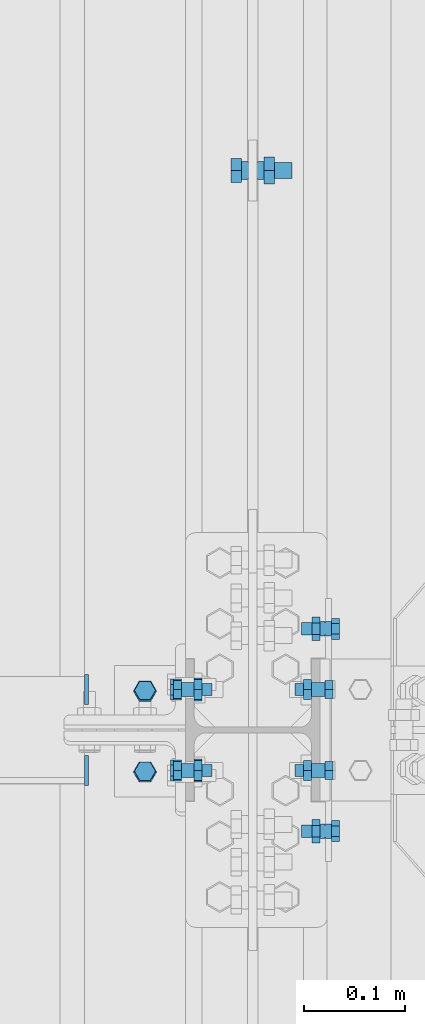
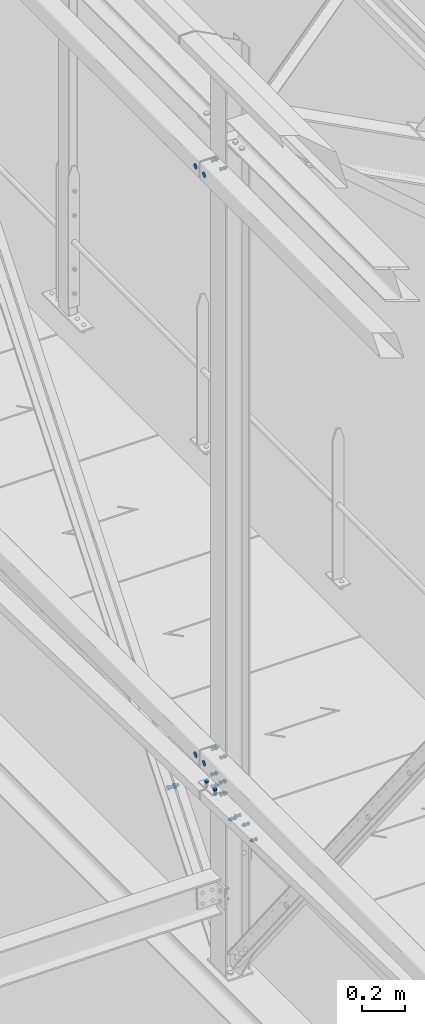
# One storey, part 244 of 362: 19 mechanical fasteners.
"""IFC2X3 building model written with IfcOpenShell, lengths in millimetres."""

from ifc_helpers import new_model, si_unit, frame, origin_with_axes, origin_2d_with_axis, place, context, subcontext, project, spatial, polyline, circle, outline, extrude, source, transform, mapped, material, type_object, element, save


model = new_model("IFC2X3")

# Units and contexts
model_context = context("Model", 3, precision=1e-05, world=origin_with_axes())
body_context = subcontext(model_context, "Body", "Model", "MODEL_VIEW")
ifc_project = project(units=[si_unit("LENGTHUNIT", "METRE", prefix="MILLI"), si_unit("AREAUNIT", "SQUARE_METRE"), si_unit("VOLUMEUNIT", "CUBIC_METRE"), si_unit("MASSUNIT", "GRAM", prefix="KILO"), si_unit("TIMEUNIT", "SECOND"), si_unit("PLANEANGLEUNIT", "RADIAN"), si_unit("SOLIDANGLEUNIT", "STERADIAN"), si_unit("THERMODYNAMICTEMPERATUREUNIT", "DEGREE_CELSIUS"), si_unit("LUMINOUSINTENSITYUNIT", "LUMEN")], contexts=[model_context])

# Site, building, storey
site_placement = place(None, origin_with_axes())
site = spatial("IfcSite", under=ifc_project, at=site_placement, Name="Undefined", CompositionType="ELEMENT")
building_placement = place(site_placement, origin_with_axes())
building = spatial("IfcBuilding", under=site, at=building_placement, Name="Undefined", CompositionType="ELEMENT")
storey_placement = place(building_placement, origin_with_axes())
storey = spatial("IfcBuildingStorey", under=building, at=storey_placement, Name="Undefined", CompositionType="ELEMENT", Elevation=0.0)

# Mechanical fasteners
ifc_material_1 = material(Name="6.8")
mechanical_fastener_type = type_object("IfcMechanicalFastenerType", Name="Bolt assembly")
shared_shape_1 = source(origin_with_axes(), body_context, "Body", "SweptSolid", [
    extrude(circle(Radius=15.0, at=origin_2d_with_axis()), frame((0.0, 0.0, 0.0), z_axis=(0.0, 1.0, 0.0), x_axis=(1.0, 0.0, 0.0)), (0.0, 0.0, 1.0), 4.1),
])
for number, where, z_axis, x_axis, name in (
    (1, (12513.5000000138, 7639.99203703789, 11870.0), (0.0, 1.0, 0.0), (0.0, 0.0, 1.0), "Bolt assembly"),
    (2, (12513.5000000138, 7560.0, 11870.0), (0.0, 1.0, 0.0), (0.0, 0.0, 1.0), "Bolt assembly"),
    (3, (12513.5000000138, 7639.99203703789, 8500.0), (0.0, -1.0, 0.0), (0.0, 0.0, -1.0), "Bolt assembly"),
    (4, (12513.5000000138, 7560.0, 8500.0), (0.0, -1.0, 0.0), (0.0, 0.0, -1.0), "Bolt assembly"),
):
    element("IfcMechanicalFastener", number, at=place(storey_placement, frame(where, z_axis=z_axis, x_axis=x_axis)), inside=storey, type_object=mechanical_fastener_type, material=ifc_material_1, Name=name, NominalDiameter=30.0, NominalLength=4.0, context=body_context, shape_type="MappedRepresentation", body=[
        mapped(shared_shape_1, transform((0.0, 0.0, 0.0))),
    ])
ifc_material_2 = material(Name="8.8-SB-ZINGUE")
shared_shape_2 = source(origin_with_axes(), body_context, "Body", "SweptSolid", [
    extrude(circle(Radius=9.0, at=origin_2d_with_axis()), frame((0.0, -10.9000000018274, 0.0), z_axis=(0.0, 1.0, 0.0), x_axis=(1.0, 0.0, 0.0)), (0.0, 0.0, 1.0), 6.0),
    extrude(circle(Radius=9.0, at=origin_2d_with_axis()), frame((0.0, 4.9000000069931, 0.0), z_axis=(0.0, 1.0, 0.0), x_axis=(1.0, 0.0, 0.0)), (0.0, 0.0, 1.0), 6.1),
    extrude(circle(Radius=9.0, at=origin_2d_with_axis()), frame((0.0, -3.99999923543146, 0.0), z_axis=(0.0, 1.0, 0.0), x_axis=(1.0, 0.0, 0.0)), (0.0, 0.0, 1.0), 8.0),
    extrude(outline(polyline([(13.85640646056, 0.0), (6.92820323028, 12.0000000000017), (-6.92820323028, 12.0000000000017), (-13.85640646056, 0.0), (-6.92820323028, -12.0000000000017), (6.92820323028, -12.0000000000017), (13.85640646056, 0.0)])), frame((0.0, -21.5600000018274, 0.0), z_axis=(0.0, 1.0, 0.0), x_axis=(1.0, 0.0, 0.0)), (0.0, 0.0, 1.0), 10.56),
    extrude(circle(Radius=8.0, at=origin_2d_with_axis()), frame((0.0, -11.0000000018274, 0.0), z_axis=(0.0, 1.0, 0.0), x_axis=(1.0, 0.0, 0.0)), (0.0, 0.0, 1.0), 50.0),
    extrude(outline(polyline([(15.3344231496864, 0.0), (7.6672115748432, 13.2800000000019), (-7.6672115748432, 13.2800000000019), (-15.3344231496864, 0.0), (-7.6672115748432, -13.2800000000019), (7.6672115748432, -13.2800000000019), (15.3344231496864, 0.0)])), frame((0.0, 11.0000000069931, 0.0), z_axis=(0.0, 1.0, 0.0), x_axis=(1.0, 0.0, 0.0)), (0.0, 0.0, 1.0), 10.56),
])
mechanical_fastener_1_placement = place(storey_placement, frame((12680.0, 8152.78710423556, 7946.36627816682), z_axis=(0.0, 1.0, 0.0), x_axis=(0.0, 0.0, 1.0)))
element("IfcMechanicalFastener", 5, at=mechanical_fastener_1_placement, inside=storey, type_object=mechanical_fastener_type, material=ifc_material_2, Name="Bolt assembly", NominalDiameter=16.0, NominalLength=50.0, context=body_context, shape_type="MappedRepresentation", body=[
    mapped(shared_shape_2, transform((0.0, 0.0, 0.0))),
])
shared_shape_3 = source(origin_with_axes(), body_context, "Body", "SweptSolid", [
    extrude(circle(Radius=7.0, at=origin_2d_with_axis()), frame((0.0, -0.100011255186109, 0.0), z_axis=(0.0, 1.0, 0.0), x_axis=(1.0, 0.0, 0.0)), (0.0, 0.0, 1.0), 8.6),
    extrude(circle(Radius=7.0, at=origin_2d_with_axis()), frame((0.0, -6.9, 0.0), z_axis=(0.0, 1.0, 0.0), x_axis=(1.0, 0.0, 0.0)), (0.0, 0.0, 1.0), 7.0),
    extrude(outline(polyline([(10.39230484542, 0.0), (5.19615242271, 9.00000000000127), (-5.19615242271, 9.00000000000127), (-10.39230484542, 0.0), (-5.19615242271, -9.00000000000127), (5.19615242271, -9.00000000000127), (10.39230484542, 0.0)])), frame((0.0, -14.92, 0.0), z_axis=(0.0, 1.0, 0.0), x_axis=(1.0, 0.0, 0.0)), (0.0, 0.0, 1.0), 7.92),
    extrude(circle(Radius=6.0, at=origin_2d_with_axis()), frame((0.0, -7.0, 0.0), z_axis=(0.0, 1.0, 0.0), x_axis=(1.0, 0.0, 0.0)), (0.0, 0.0, 1.0), 30.0),
    extrude(outline(polyline([(11.5008173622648, 0.0), (5.7504086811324, 9.96000000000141), (-5.7504086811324, 9.96000000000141), (-11.5008173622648, 0.0), (-5.7504086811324, -9.96000000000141), (5.7504086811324, -9.96000000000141), (11.5008173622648, 0.0)])), frame((0.0, 8.49999994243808, 0.0), z_axis=(0.0, 1.0, 0.0), x_axis=(1.0, 0.0, 0.0)), (0.0, 0.0, 1.0), 7.92),
])
for number, where, z_axis, x_axis, name in (
    (6, (12613.5000000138, 7639.99999815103, 8355.19725207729), (0.0, 0.0, -1.0), (0.0, 1.0, 0.0), "Bolt assembly"),
    (7, (12613.5000000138, 7559.99999815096, 8357.71157784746), (0.0, 0.0, 1.0), (0.0, -1.0, 0.0), "Bolt assembly"),
):
    element("IfcMechanicalFastener", number, at=place(storey_placement, frame(where, z_axis=z_axis, x_axis=x_axis)), inside=storey, type_object=mechanical_fastener_type, material=ifc_material_2, Name=name, NominalDiameter=12.0, NominalLength=30.0, context=body_context, shape_type="MappedRepresentation", body=[
        mapped(shared_shape_3, transform((0.0, 0.0, 0.0))),
    ])
shared_shape_4 = source(origin_with_axes(), body_context, "Body", "SweptSolid", [
    extrude(circle(Radius=7.0, at=origin_2d_with_axis()), frame((0.0, -0.108112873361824, 0.0), z_axis=(0.0, 1.0, 0.0), x_axis=(1.0, 0.0, 0.0)), (0.0, 0.0, 1.0), 5.1),
    extrude(circle(Radius=7.0, at=origin_2d_with_axis()), frame((0.0, -6.4, 0.0), z_axis=(0.0, 1.0, 0.0), x_axis=(1.0, 0.0, 0.0)), (0.0, 0.0, 1.0), 6.0),
    extrude(outline(polyline([(10.39230484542, 0.0), (5.19615242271, 9.00000000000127), (-5.19615242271, 9.00000000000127), (-10.39230484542, 0.0), (-5.19615242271, -9.00000000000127), (5.19615242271, -9.00000000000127), (10.39230484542, 0.0)])), frame((0.0, -14.42, 0.0), z_axis=(0.0, 1.0, 0.0), x_axis=(1.0, 0.0, 0.0)), (0.0, 0.0, 1.0), 7.92),
    extrude(circle(Radius=6.0, at=origin_2d_with_axis()), frame((0.0, -6.5, 0.0), z_axis=(0.0, 1.0, 0.0), x_axis=(1.0, 0.0, 0.0)), (0.0, 0.0, 1.0), 30.0),
    extrude(outline(polyline([(11.5008173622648, 0.0), (5.7504086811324, 9.96000000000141), (-5.7504086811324, 9.96000000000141), (-11.5008173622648, 0.0), (-5.7504086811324, -9.96000000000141), (5.7504086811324, -9.96000000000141), (11.5008173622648, 0.0)])), frame((0.0, 4.99188712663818, 0.0), z_axis=(0.0, 1.0, 0.0), x_axis=(1.0, 0.0, 0.0)), (0.0, 0.0, 1.0), 7.92),
])
for number, where, z_axis, x_axis, name in (
    (8, (12751.5001144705, 7699.99999998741, 8015.00000000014), (0.0, 0.0, -1.0), (0.0, -1.0, 0.0), "Bolt assembly"),
    (9, (12751.5001144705, 7499.99999998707, 8015.00000000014), (0.0, 0.0, 1.0), (0.0, 1.0, 0.0), "Bolt assembly"),
):
    element("IfcMechanicalFastener", number, at=place(storey_placement, frame(where, z_axis=z_axis, x_axis=x_axis)), inside=storey, type_object=mechanical_fastener_type, material=ifc_material_2, Name=name, NominalDiameter=12.0, NominalLength=30.0, context=body_context, shape_type="MappedRepresentation", body=[
        mapped(shared_shape_4, transform((0.0, 0.0, 0.0))),
    ])
shared_shape_5 = source(origin_with_axes(), body_context, "Body", "SweptSolid", [
    extrude(circle(Radius=7.0, at=origin_2d_with_axis()), frame((0.0, -0.0917710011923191, 0.0), z_axis=(0.0, 1.0, 0.0), x_axis=(1.0, 0.0, 0.0)), (0.0, 0.0, 1.0), 8.6),
    extrude(circle(Radius=7.0, at=origin_2d_with_axis()), frame((0.0, -4.90000000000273, 0.0), z_axis=(0.0, 1.0, 0.0), x_axis=(1.0, 0.0, 0.0)), (0.0, 0.0, 1.0), 5.0),
    extrude(outline(polyline([(10.39230484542, 0.0), (5.19615242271, 9.00000000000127), (-5.19615242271, 9.00000000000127), (-10.39230484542, 0.0), (-5.19615242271, -9.00000000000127), (5.19615242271, -9.00000000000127), (10.39230484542, 0.0)])), frame((0.0, -12.9200004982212, 0.0), z_axis=(0.0, 1.0, 0.0), x_axis=(1.0, 0.0, 0.0)), (0.0, 0.0, 1.0), 7.92),
    extrude(circle(Radius=6.0, at=origin_2d_with_axis()), frame((0.0, -5.00000000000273, 0.0), z_axis=(0.0, 1.0, 0.0), x_axis=(1.0, 0.0, 0.0)), (0.0, 0.0, 1.0), 30.0),
    extrude(outline(polyline([(11.5008173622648, 0.0), (5.7504086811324, 9.96000000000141), (-5.7504086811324, 9.96000000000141), (-11.5008173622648, 0.0), (-5.7504086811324, -9.96000000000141), (5.7504086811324, -9.96000000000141), (11.5008173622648, 0.0)])), frame((0.0, 8.50822899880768, 0.0), z_axis=(0.0, 1.0, 0.0), x_axis=(1.0, 0.0, 0.0)), (0.0, 0.0, 1.0), 7.92),
])
for number, where, z_axis, x_axis, name in (
    (10, (12746.5082291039, 7560.00000098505, 8070.00000000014), (0.0, 1.0, 0.0), (0.0, 0.0, -1.0), "Bolt assembly"),
    (11, (12746.5082291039, 7640.00000098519, 8070.00000000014), (0.0, 1.0, 0.0), (0.0, 0.0, -1.0), "Bolt assembly"),
):
    element("IfcMechanicalFastener", number, at=place(storey_placement, frame(where, z_axis=z_axis, x_axis=x_axis)), inside=storey, type_object=mechanical_fastener_type, material=ifc_material_2, Name=name, NominalDiameter=12.0, NominalLength=30.0, context=body_context, shape_type="MappedRepresentation", body=[
        mapped(shared_shape_5, transform((0.0, 0.0, 0.0))),
    ])
shared_shape_6 = source(origin_with_axes(), body_context, "Body", "SweptSolid", [
    extrude(circle(Radius=7.0, at=origin_2d_with_axis()), frame((0.0, -1.35617756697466, 0.0), z_axis=(0.0, 1.0, 0.0), x_axis=(1.0, 0.0, 0.0)), (0.0, 0.0, 1.0), 4.1),
    extrude(circle(Radius=7.0, at=origin_2d_with_axis()), frame((0.0, -8.15617756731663, 0.0), z_axis=(0.0, 1.0, 0.0), x_axis=(1.0, 0.0, 0.0)), (0.0, 0.0, 1.0), 7.0),
    extrude(outline(polyline([(10.39230484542, 0.0), (5.19615242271, 9.00000000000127), (-5.19615242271, 9.00000000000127), (-10.39230484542, 0.0), (-5.19615242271, -9.00000000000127), (5.19615242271, -9.00000000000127), (10.39230484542, 0.0)])), frame((0.0, -16.1761775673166, 0.0), z_axis=(0.0, 1.0, 0.0), x_axis=(1.0, 0.0, 0.0)), (0.0, 0.0, 1.0), 7.92),
    extrude(circle(Radius=6.0, at=origin_2d_with_axis()), frame((0.0, -8.25617756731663, 0.0), z_axis=(0.0, 1.0, 0.0), x_axis=(1.0, 0.0, 0.0)), (0.0, 0.0, 1.0), 30.0),
    extrude(outline(polyline([(11.5008173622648, 0.0), (5.7504086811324, 9.96000000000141), (-5.7504086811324, 9.96000000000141), (-11.5008173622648, 0.0), (-5.7504086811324, -9.96000000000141), (5.7504086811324, -9.96000000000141), (11.5008173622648, 0.0)])), frame((0.0, 2.74382243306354, 0.0), z_axis=(0.0, 1.0, 0.0), x_axis=(1.0, 0.0, 0.0)), (0.0, 0.0, 1.0), 7.92),
])
mechanical_fastener_2_placement = place(storey_placement, frame((12573.5001163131, 7638.67387847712, 8313.9623821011), z_axis=(0.0, 0.999506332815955, -0.0314179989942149), x_axis=(1.0, 0.0, 0.0)))
element("IfcMechanicalFastener", 12, at=mechanical_fastener_2_placement, inside=storey, type_object=mechanical_fastener_type, material=ifc_material_2, Name="Bolt assembly", NominalDiameter=12.0, NominalLength=30.0, context=body_context, shape_type="MappedRepresentation", body=[
    mapped(shared_shape_6, transform((0.0, 0.0, 0.0))),
])
shared_shape_7 = source(origin_with_axes(), body_context, "Body", "SweptSolid", [
    extrude(circle(Radius=7.0, at=origin_2d_with_axis()), frame((0.0, -1.35662777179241, 0.0), z_axis=(0.0, 1.0, 0.0), x_axis=(1.0, 0.0, 0.0)), (0.0, 0.0, 1.0), 4.1),
    extrude(circle(Radius=7.0, at=origin_2d_with_axis()), frame((0.0, -8.15654244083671, 0.0), z_axis=(0.0, 1.0, 0.0), x_axis=(1.0, 0.0, 0.0)), (0.0, 0.0, 1.0), 7.0),
    extrude(outline(polyline([(10.39230484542, 0.0), (5.19615242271, 9.00000000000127), (-5.19615242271, 9.00000000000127), (-10.39230484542, 0.0), (-5.19615242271, -9.00000000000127), (5.19615242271, -9.00000000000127), (10.39230484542, 0.0)])), frame((0.0, -16.1765424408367, 0.0), z_axis=(0.0, 1.0, 0.0), x_axis=(1.0, 0.0, 0.0)), (0.0, 0.0, 1.0), 7.92),
    extrude(circle(Radius=6.0, at=origin_2d_with_axis()), frame((0.0, -8.25654244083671, 0.0), z_axis=(0.0, 1.0, 0.0), x_axis=(1.0, 0.0, 0.0)), (0.0, 0.0, 1.0), 30.0),
    extrude(outline(polyline([(11.5008173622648, 0.0), (5.7504086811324, 9.96000000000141), (-5.7504086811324, 9.96000000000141), (-11.5008173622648, 0.0), (-5.7504086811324, -9.96000000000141), (5.7504086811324, -9.96000000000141), (11.5008173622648, 0.0)])), frame((0.0, 2.74337222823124, 0.0), z_axis=(0.0, 1.0, 0.0), x_axis=(1.0, 0.0, 0.0)), (0.0, 0.0, 1.0), 7.92),
])
mechanical_fastener_3_placement = place(storey_placement, frame((12573.5001163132, 7558.74345570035, 8316.47415606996), z_axis=(3.14103090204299e-11, 0.999506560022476, -0.0314107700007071), x_axis=(1.0, 0.0, 0.0)))
element("IfcMechanicalFastener", 13, at=mechanical_fastener_3_placement, inside=storey, type_object=mechanical_fastener_type, material=ifc_material_2, Name="Bolt assembly", NominalDiameter=12.0, NominalLength=30.0, context=body_context, shape_type="MappedRepresentation", body=[
    mapped(shared_shape_7, transform((0.0, 0.0, 0.0))),
])
shared_shape_8 = source(origin_with_axes(), body_context, "Body", "SweptSolid", [
    extrude(circle(Radius=7.0, at=origin_2d_with_axis()), frame((0.0, -0.100011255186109, 0.0), z_axis=(0.0, 1.0, 0.0), x_axis=(1.0, 0.0, 0.0)), (0.0, 0.0, 1.0), 8.6),
    extrude(circle(Radius=7.0, at=origin_2d_with_axis()), frame((0.0, -3.89999843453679, 0.0), z_axis=(0.0, 1.0, 0.0), x_axis=(1.0, 0.0, 0.0)), (0.0, 0.0, 1.0), 4.0),
    extrude(outline(polyline([(10.39230484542, 0.0), (5.19615242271, 9.00000000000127), (-5.19615242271, 9.00000000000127), (-10.39230484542, 0.0), (-5.19615242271, -9.00000000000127), (5.19615242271, -9.00000000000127), (10.39230484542, 0.0)])), frame((0.0, -11.9199984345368, 0.0), z_axis=(0.0, 1.0, 0.0), x_axis=(1.0, 0.0, 0.0)), (0.0, 0.0, 1.0), 7.92),
    extrude(circle(Radius=6.0, at=origin_2d_with_axis()), frame((0.0, -3.99999923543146, 0.0), z_axis=(0.0, 1.0, 0.0), x_axis=(1.0, 0.0, 0.0)), (0.0, 0.0, 1.0), 30.0),
    extrude(outline(polyline([(11.5008173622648, 0.0), (5.7504086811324, 9.96000000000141), (-5.7504086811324, 9.96000000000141), (-11.5008173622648, 0.0), (-5.7504086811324, -9.96000000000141), (5.7504086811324, -9.96000000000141), (11.5008173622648, 0.0)])), frame((0.0, 8.49999994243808, 0.0), z_axis=(0.0, 1.0, 0.0), x_axis=(1.0, 0.0, 0.0)), (0.0, 0.0, 1.0), 7.92),
])
for number, where, z_axis, x_axis, name in (
    (14, (12613.5000000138, 7639.99989873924, 8285.15958067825), (0.0, 0.0, -1.0), (0.0, 1.0, 0.0), "Bolt assembly"),
    (15, (12613.5000000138, 7559.99989873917, 8287.67390644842), (0.0, 0.0, 1.0), (0.0, -1.0, 0.0), "Bolt assembly"),
    (16, (12613.5, 7640.0, 11869.9999981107), (0.0, 1.0, 0.0), (0.0, 0.0, 1.0), "Bolt assembly"),
    (17, (12613.5, 7560.0, 11869.9999981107), (0.0, 1.0, 0.0), (0.0, 0.0, 1.0), "Bolt assembly"),
    (18, (12613.5, 7640.0, 8500.00000188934), (0.0, -1.0, 0.0), (0.0, 0.0, -1.0), "Bolt assembly"),
    (19, (12613.5, 7560.0, 8500.00000188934), (0.0, -1.0, 0.0), (0.0, 0.0, -1.0), "Bolt assembly"),
):
    element("IfcMechanicalFastener", number, at=place(storey_placement, frame(where, z_axis=z_axis, x_axis=x_axis)), inside=storey, type_object=mechanical_fastener_type, material=ifc_material_2, Name=name, NominalDiameter=12.0, NominalLength=30.0, context=body_context, shape_type="MappedRepresentation", body=[
        mapped(shared_shape_8, transform((0.0, 0.0, 0.0))),
    ])

save(model, "model.ifc")
